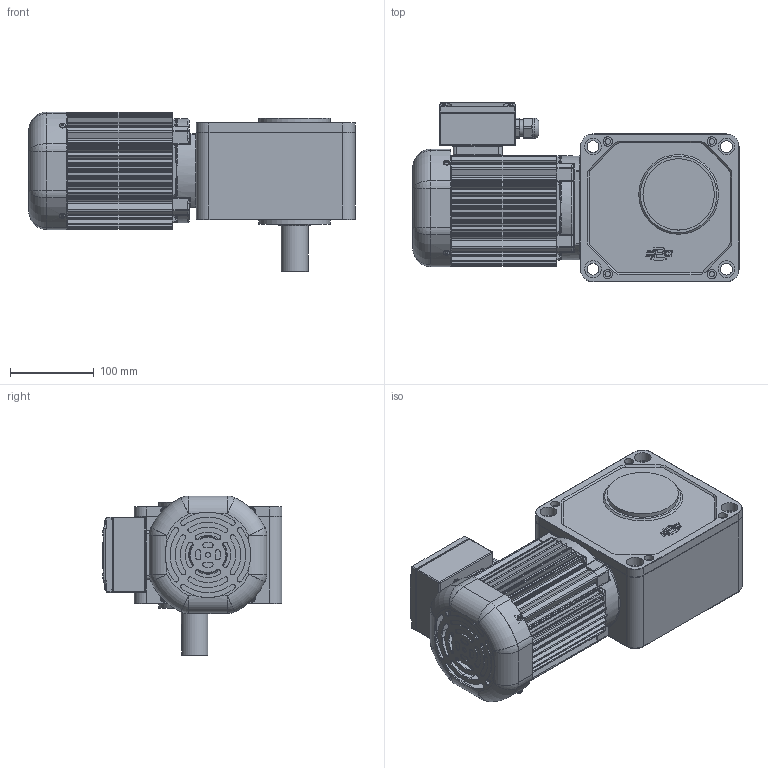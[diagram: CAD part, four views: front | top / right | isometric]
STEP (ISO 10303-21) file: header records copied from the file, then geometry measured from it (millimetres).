
FILE_DESCRIPTION(/* description */ (''),/* implementation_level */ '2;1');
FILE_NAME(/* name */ 'Z:\동력 3D 파일\PCS32R_0.4kW_3D.stp',/* time_stamp */ '2021-11-09T11:29:27+09:00',/* author */ ('jaebok'),/* organization */ (''),/* preprocessor_version */ 'ST-DEVELOPER v18.1',/* originating_system */ 'Autodesk Inventor 2022',/* authorisation */ '');
FILE_SCHEMA (('CONFIG_CONTROL_DESIGN','AUTOMOTIVE_DESIGN { 1 0 10303 214 3 1 1 }'));
Products named in the file (1): 부품55
Bounding box: 388.5 x 214 x 190.5 mm (x, y, z)
Volume: 2630713.5 mm3; surface area: 653235.7 mm2
Topology: 1 solids, 26 shells, 1997 faces, 5151 edges, 3243 vertices
Faces by surface type: plane 853, cylinder 741, torus 172, bspline 103, cone 96, sphere 32
Full cylindrical faces by diameter (mm): 3.242 x5, 3.25 x1, 3.5 x4, 3.6 x4, 4 x21, 5 x13, 5.386 x4, 6 x13, 6.5 x4, 6.647 x1, 7 x12, 8 x1, 10 x1, 11 x4, 12.5 x1, 14 x4, 15 x1, 18 x1, 20 x14, 21 x1, 23.6 x1, 25 x1, 30 x1, 31 x1, 32 x1, 40 x3, 44 x1, 54.5 x1, 68 x1, 72 x2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
Entity records: 66829 total; most frequent: CARTESIAN_POINT 15633, DIRECTION 10635, ORIENTED_EDGE 10184, EDGE_CURVE 5092, AXIS2_PLACEMENT_3D 4101, VERTEX_POINT 3243, LINE 2433, VECTOR 2433
